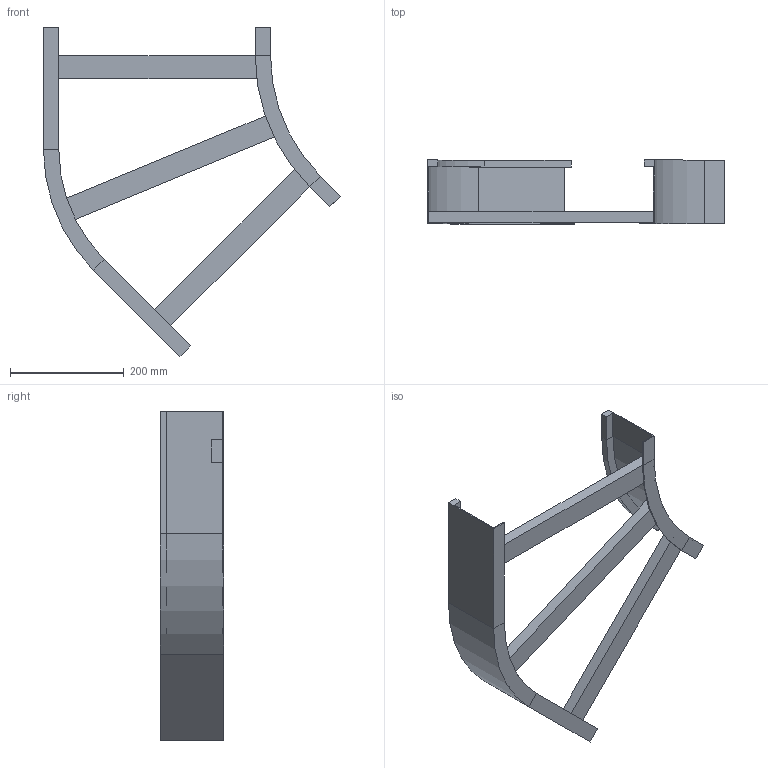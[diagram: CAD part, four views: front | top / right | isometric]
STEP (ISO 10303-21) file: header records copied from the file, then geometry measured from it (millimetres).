
FILE_DESCRIPTION (( 'STEP AP214' ), '1' );
FILE_NAME ('B2_11B3J400.step', '2025-02-21T15:14:53', ( '' ), ( '' ), 'SwSTEP 2.0', 'SolidWorks 2023', '' );
FILE_SCHEMA (( 'AUTOMOTIVE_DESIGN' ));
Length unit declared in the file: millimetre
Products named in the file (5): B2_11B3J400; B2_LONGH.INTERNO 45°_H112.5_R300; TRAVERSINO_L428; B2_LONGH.ESTERNO 45°_H112.5_R300+400; TRAVERSINO_400
Assembly tree (5 placements, depth 2):
  B2_11B3J400
    B2_LONGH.INTERNO 45°_H112.5_R300
    B2_LONGH.ESTERNO 45°_H112.5_R300+400
    TRAVERSINO_400  x2
    TRAVERSINO_L428
Bounding box: 523.22 x 112.5 x 580.33 mm (x, y, z)
Volume: 1456418.8 mm3; surface area: 466159.6 mm2
Topology: 5 solids, 5 shells, 70 faces, 148 edges, 88 vertices
Faces by surface type: plane 62, cylinder 8
Entity records: 1822 total; most frequent: DIRECTION 296, CARTESIAN_POINT 288, ORIENTED_EDGE 272, EDGE_CURVE 136, LINE 120, VECTOR 120, AXIS2_PLACEMENT_3D 88, VERTEX_POINT 80
